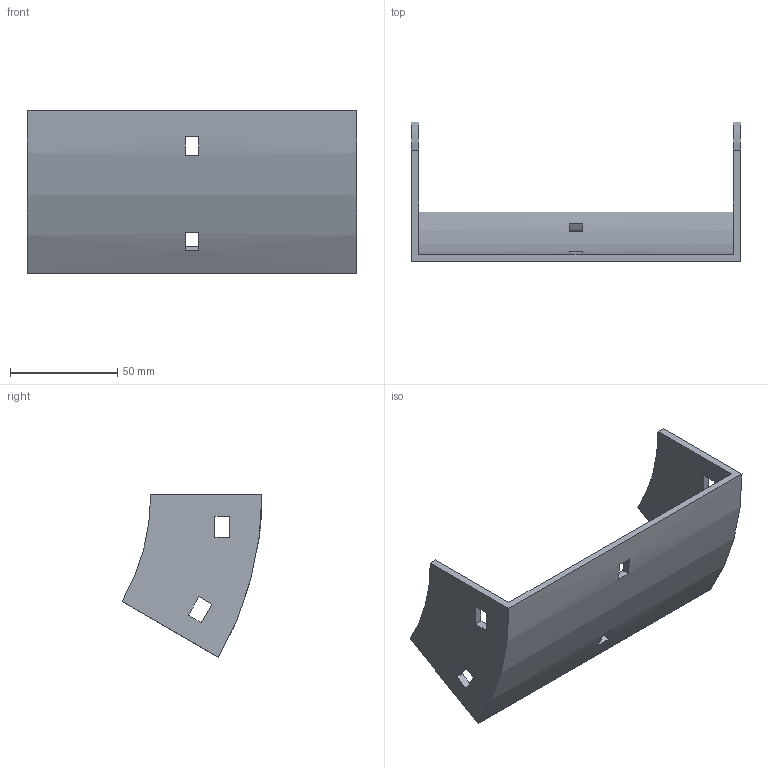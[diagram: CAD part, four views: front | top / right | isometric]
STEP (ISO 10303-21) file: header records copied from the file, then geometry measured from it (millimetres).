
FILE_DESCRIPTION (( 'STEP AP214' ), '1' );
FILE_NAME ('32B1B150.step', '2025-02-21T09:43:27', ( '' ), ( '' ), 'SwSTEP 2.0', 'SolidWorks 2023', '' );
FILE_SCHEMA (( 'AUTOMOTIVE_DESIGN' ));
Length unit declared in the file: millimetre
Products named in the file (1): 32B1B150
Bounding box: 154 x 65.4 x 76 mm (x, y, z)
Volume: 63098.4 mm3; surface area: 38880.5 mm2
Topology: 1 solids, 1 shells, 34 faces, 96 edges, 64 vertices
Faces by surface type: plane 30, cylinder 4
Entity records: 1143 total; most frequent: CARTESIAN_POINT 195, ORIENTED_EDGE 192, DIRECTION 182, EDGE_CURVE 96, LINE 80, VECTOR 80, VERTEX_POINT 64, AXIS2_PLACEMENT_3D 51
